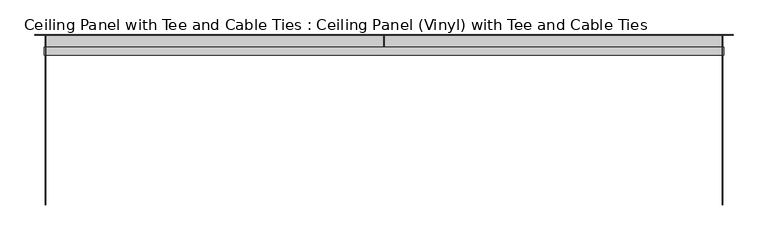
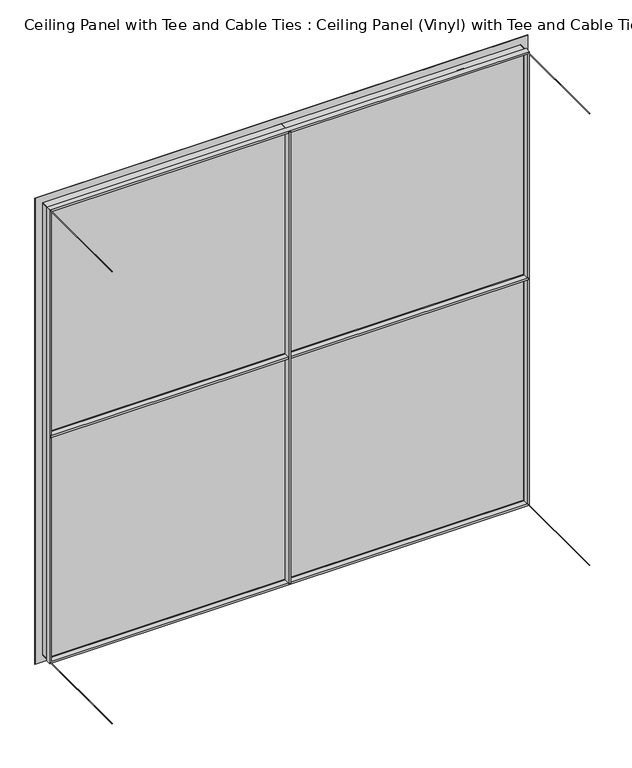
"""IFC4 building model written with IfcOpenShell, lengths in millimetres: plate geometry, Ceiling Panel with Tee and Cable Ties : Ceiling Panel (Vinyl) with Tee and Cable Ties."""

from ifc_helpers import new_model, si_unit, point, frame, frame_2d, origin, origin_with_axes, place, context, project, spatial, polyline, circle_curve, trimmed, segment, composite_curve, outline, extrude, faceted_brep, source, transform, mapped, element, save


def ceiling_panel_with_tee_and_cable_ties_ceiling_panel_vinyl_5080f121(model_context):
    return source(origin(), model_context, "Body", "SolidModel", [
        extrude(outline(composite_curve([segment(trimmed(circle_curve(frame_2d((1200.0, 600.0000002)), 0.5), [point((1200.0, 600.5000002))], [point((1200.0, 599.5000002))], False, "CARTESIAN"), True, "CONTINUOUS"), segment(trimmed(circle_curve(frame_2d((1200.0, 600.0000002)), 0.5), [point((1200.0, 599.5000002))], [point((1200.0, 600.5000002))], False, "CARTESIAN"), True, "CONTINUOUS")], self_intersect=False)), frame((0.0, -300.0, 0.0), z_axis=(0.0, 1.0, 0.0), x_axis=(0.0, 0.0, 1.0)), (0.0, 0.0, 1.0), 300.0),
        extrude(outline(composite_curve([segment(trimmed(circle_curve(frame_2d((1200.0, -600.0000002)), 0.5), [point((1200.0, -599.5000002))], [point((1200.0, -600.5000002))], False, "CARTESIAN"), True, "CONTINUOUS"), segment(trimmed(circle_curve(frame_2d((1200.0, -600.0000002)), 0.5), [point((1200.0, -600.5000002))], [point((1200.0, -599.5000002))], False, "CARTESIAN"), True, "CONTINUOUS")], self_intersect=False)), frame((0.0, -300.0, 0.0), z_axis=(0.0, 1.0, 0.0), x_axis=(0.0, 0.0, 1.0)), (0.0, 0.0, 1.0), 300.0),
        extrude(outline(composite_curve([segment(trimmed(circle_curve(frame_2d((0.0, 600.0000002)), 0.5), [point((0.0, 600.5000002))], [point((0.0, 599.5000002))], False, "CARTESIAN"), True, "CONTINUOUS"), segment(trimmed(circle_curve(frame_2d((0.0, 600.0000002)), 0.5), [point((0.0, 599.5000002))], [point((0.0, 600.5000002))], False, "CARTESIAN"), True, "CONTINUOUS")], self_intersect=False)), frame((0.0, -300.0, 0.0), z_axis=(0.0, 1.0, 0.0), x_axis=(0.0, 0.0, 1.0)), (0.0, 0.0, 1.0), 300.0),
        extrude(outline(composite_curve([segment(trimmed(circle_curve(frame_2d((0.0, -600.0000002)), 0.5), [point((0.0, -599.5000002))], [point((0.0, -600.5000002))], False, "CARTESIAN"), True, "CONTINUOUS"), segment(trimmed(circle_curve(frame_2d((0.0, -600.0000002)), 0.5), [point((0.0, -600.5000002))], [point((0.0, -599.5000002))], False, "CARTESIAN"), True, "CONTINUOUS")], self_intersect=False)), frame((0.0, -300.0, 0.0), z_axis=(0.0, 1.0, 0.0), x_axis=(0.0, 0.0, 1.0)), (0.0, 0.0, 1.0), 300.0),
        extrude(outline(polyline([(19.0, 2.0), (19.0, 1.0), (0.5, 1.0), (0.5, -20.0), (2.5, -20.0), (2.5, -34.0), (-2.5, -34.0), (-2.5, -20.0), (-0.5, -20.0), (-0.5, 1.0), (-19.0, 1.0), (-19.0, 2.0), (19.0, 2.0)])), origin_with_axes(), (0.0, 0.0, 1.0), 1200.0),
        extrude(outline(polyline([(2.0, 619.0), (2.0, 581.0), (1.0, 581.0), (1.0, 599.5), (-20.0, 599.5), (-20.0, 597.5), (-34.0, 597.5), (-34.0, 602.5), (-20.0, 602.5), (-20.0, 600.5), (1.0, 600.5), (1.0, 619.0), (2.0, 619.0)])), frame((-600.0000002, 0.0, 0.0), z_axis=(1.0, 0.0, 0.0), x_axis=(0.0, 1.0, 0.0)), (0.0, 0.0, 1.0), 1200.0000003),
        faceted_brep([(581.0000002, 1.0, 1181.0), (581.0000002, 2.0, 1181.0), (581.0000002, 2.0, 19.0), (581.0000002, 1.0, 19.0), (599.5000002, -20.0, 1199.5), (599.5000002, 1.0, 1199.5), (599.5000002, 1.0, 0.5), (599.5000002, -20.0, 0.5), (597.5000002, -34.0, 1197.5), (597.5000002, -20.0, 1197.5), (597.5000002, -20.0, 2.5), (597.5000002, -34.0, 2.5), (602.5000002, -20.0, 1202.5), (602.5000002, -34.0, 1202.5), (602.5000002, -34.0, -2.5), (602.5000002, -20.0, -2.5), (600.5000002, 1.0, 1200.5), (600.5000002, -20.0, 1200.5), (600.5000002, -20.0, -0.5), (600.5000002, 1.0, -0.5), (619.0000002, 2.0, 1219.0), (619.0000002, 1.0, 1219.0), (619.0000002, 1.0, -19.0), (619.0000002, 2.0, -19.0), (-581.0000002, 2.0, 19.0), (-581.0000002, 1.0, 19.0), (-599.5000002, 1.0, 0.5), (-599.5000002, -20.0, 0.5), (-597.5000002, -20.0, 2.5), (-597.5000002, -34.0, 2.5), (-602.5000002, -34.0, -2.5), (-602.5000002, -20.0, -2.5), (-600.5000002, -20.0, -0.5), (-600.5000002, 1.0, -0.5), (-619.0000002, 1.0, -19.0), (-619.0000002, 2.0, -19.0), (-581.0000002, 2.0, 1181.0), (-581.0000002, 1.0, 1181.0), (-599.5000002, 1.0, 1199.5), (-599.5000002, -20.0, 1199.5), (-597.5000002, -20.0, 1197.5), (-597.5000002, -34.0, 1197.5), (-602.5000002, -34.0, 1202.5), (-602.5000002, -20.0, 1202.5), (-600.5000002, -20.0, 1200.5), (-600.5000002, 1.0, 1200.5), (-619.0000002, 1.0, 1219.0), (-619.0000002, 2.0, 1219.0)], [[[0, 1, 2, 3]], [[4, 5, 6, 7]], [[8, 9, 10, 11]], [[12, 13, 14, 15]], [[16, 17, 18, 19]], [[20, 21, 22, 23]], [[3, 2, 24, 25]], [[7, 6, 26, 27]], [[11, 10, 28, 29]], [[15, 14, 30, 31]], [[19, 18, 32, 33]], [[23, 22, 34, 35]], [[25, 24, 36, 37]], [[27, 26, 38, 39]], [[29, 28, 40, 41]], [[31, 30, 42, 43]], [[33, 32, 44, 45]], [[35, 34, 46, 47]], [[23, 35, 47, 20], [1, 36, 24, 2]], [[37, 36, 1, 0]], [[5, 38, 26, 6], [3, 25, 37, 0]], [[39, 38, 5, 4]], [[7, 27, 39, 4], [9, 40, 28, 10]], [[41, 40, 9, 8]], [[13, 42, 30, 14], [11, 29, 41, 8]], [[43, 42, 13, 12]], [[15, 31, 43, 12], [17, 44, 32, 18]], [[45, 44, 17, 16]], [[21, 46, 34, 22], [19, 33, 45, 16]], [[47, 46, 21, 20]]]),
        extrude(outline(polyline([(600.0000002, -15.0), (-600.0000002, -15.0), (-600.0000002, 0.0), (600.0000002, 0.0), (600.0000002, -15.0)])), origin_with_axes(), (0.0, 0.0, 1.0), 1200.0),
    ])


if __name__ == "__main__":
    model = new_model("IFC4")
    model_context = context("Model", 3, world=origin())
    ifc_project = project(units=[si_unit("LENGTHUNIT", "METRE", prefix="MILLI")], contexts=[model_context])
    site = spatial("IfcSite", under=ifc_project)
    building = spatial("IfcBuilding", under=site)
    placement = place(None, origin())
    ceiling_panel_with_tee_and_cable_ties_ceiling_panel_vinyl_shape = ceiling_panel_with_tee_and_cable_ties_ceiling_panel_vinyl_5080f121(model_context)
    element("IfcPlate", 1, ObjectType="Ceiling Panel with Tee and Cable Ties : Ceiling Panel (Vinyl) with Tee and Cable Ties", at=placement, inside=building, context=model_context, shape_type="MappedRepresentation", body=[
        mapped(ceiling_panel_with_tee_and_cable_ties_ceiling_panel_vinyl_shape, transform((0.0, 0.0, 0.0), x_axis=(1.0, 0.0, 0.0), y_axis=(0.0, 1.0, 0.0), z_axis=(0.0, 0.0, 1.0))),
    ])
    save(model, "model.ifc")
